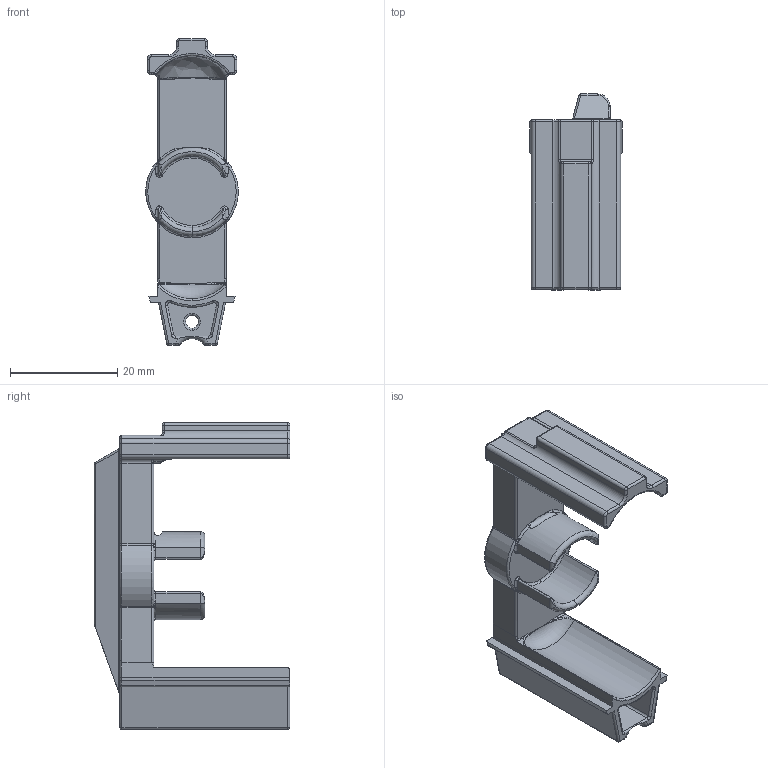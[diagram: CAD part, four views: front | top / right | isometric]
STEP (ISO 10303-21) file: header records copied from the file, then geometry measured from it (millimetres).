
FILE_DESCRIPTION(/* description */ ('STEP AP214'),/* implementation_level */ '2;1');
FILE_NAME(/* name */ 'D:\Ivan''s Printed Mag\Step\Ivan''s Standard Follower Without Brim.stp',/* time_stamp */ '2019-01-27T20:58:21-06:00',/* author */ ('johne'),/* organization */ (''),/* preprocessor_version */ 'ST-DEVELOPER v16.13',/* originating_system */ 'Autodesk Inventor 2018',/* authorisation */ '');
FILE_SCHEMA (('AUTOMOTIVE_DESIGN { 1 0 10303 214 3 1 1 }'));
Length unit declared in the file: millimetre
Products named in the file (1): DefDist_Cuomo_AR15_30_Mag_Follower
Bounding box: 17.22 x 36.53 x 57.28 mm (x, y, z)
Volume: 8963.7 mm3; surface area: 6533 mm2
Topology: 1 solids, 1 shells, 310 faces, 763 edges, 438 vertices
Faces by surface type: cylinder 118, bspline 67, torus 64, plane 52, sphere 9
Full cylindrical faces by diameter (mm): 2.388 x1
Entity records: 14275 total; most frequent: CARTESIAN_POINT 7324, ORIENTED_EDGE 1482, DIRECTION 1452, EDGE_CURVE 741, AXIS2_PLACEMENT_3D 597, VERTEX_POINT 436, EDGE_LOOP 311, CIRCLE 310
